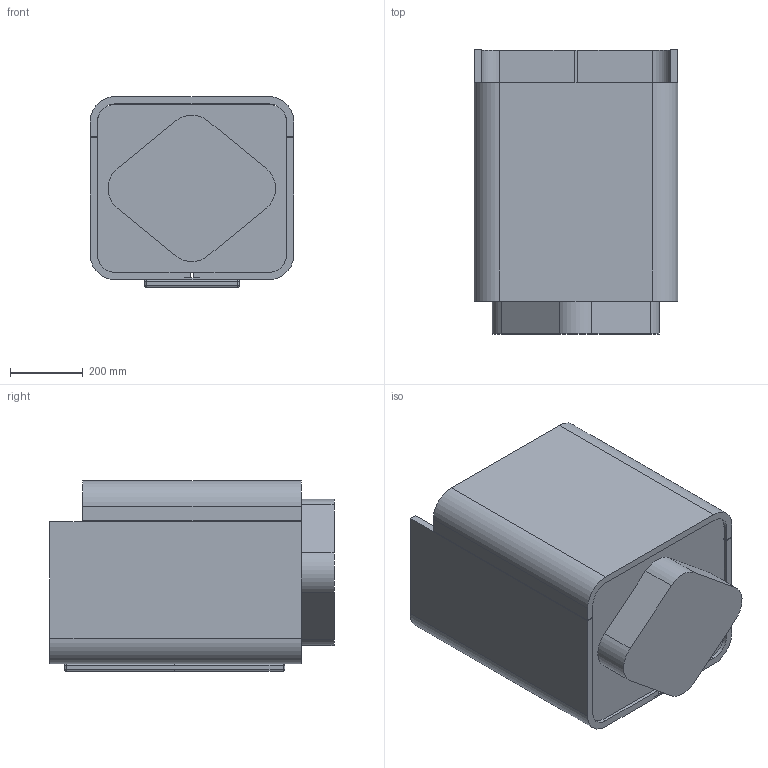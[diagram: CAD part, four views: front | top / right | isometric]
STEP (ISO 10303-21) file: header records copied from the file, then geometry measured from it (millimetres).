
FILE_DESCRIPTION(/* description */ (''),/* implementation_level */ '2;1');
FILE_NAME(/* name */ 'Elitra mobile basso',/* time_stamp */ '2024-10-15T14:18:06+02:00',/* author */ (''),/* organization */ (''),/* preprocessor_version */ 'ST-DEVELOPER v19.2',/* originating_system */ 'Rhino 8.9',/* authorisation */ '');
FILE_SCHEMA (('CONFIG_CONTROL_DESIGN'));
Length unit declared in the file: millimetre
Products named in the file (4): Document; 005932 01; 005943 01; 005927_B 01
Bounding box: 560 x 780 x 524 mm (x, y, z)
Volume: 52258147.6 mm3; surface area: 5451417.3 mm2
Topology: 10 solids, 10 shells, 125 faces, 291 edges, 186 vertices
Faces by surface type: plane 72, cylinder 45, bspline 8
Entity records: 3943 total; most frequent: CARTESIAN_POINT 1122, ORIENTED_EDGE 582, DIRECTION 311, EDGE_CURVE 291, AXIS2_PLACEMENT_3D 214, B_SPLINE_CURVE_WITH_KNOTS 205, VERTEX_POINT 186, ADVANCED_FACE 125
